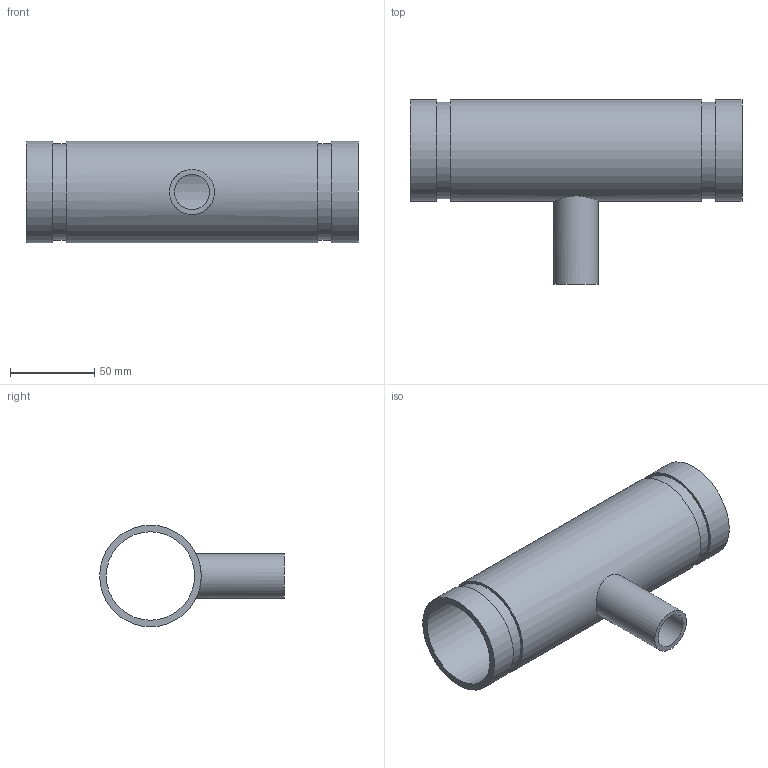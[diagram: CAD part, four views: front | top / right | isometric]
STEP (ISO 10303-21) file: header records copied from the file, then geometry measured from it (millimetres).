
FILE_DESCRIPTION(/* description */ ('VIC REDUCING TEE No 29T FFT (OGSxMPT)','CAx-IF Rec.Pracs.---Representation and Presentation of Product Manufacturing Information (PMI)---4.0---2014-10-13'),/* implementation_level */ '2;1');
FILE_NAME(/* name */ 'C:\Users\kkamble\AppData\Roaming\Autodesk\ApplicationPlugins\Back Up\Victaulic_IPS_Tee Reducing_No 29T FFT (OGSxMPT)\Victaulic_IPS_Tee Reducing_No 29T FFT (OGSxMPT)_02.0x0.75 (50x20).stp',/* time_stamp */ '2020-09-16T22:37:02+05:00',/* author */ ('CORINNE GRAY'),/* organization */ ('Victaulic'),/* preprocessor_version */ 'ST-DEVELOPER v17.2',/* originating_system */ 'Autodesk Inventor 2019',/* authorisation */ '');
FILE_SCHEMA (('AP242_MANAGED_MODEL_BASED_3D_ENGINEERING_MIM_LF { 1 0 10303 442 1 1 4 }'));
Length unit declared in the file: inch
Products named in the file (1): 29 FFT-02.0x0.75
Bounding box: 197.1 x 109.66 x 60.33 mm (x, y, z)
Volume: 141462 mm3; surface area: 79388.6 mm2
Topology: 1 solids, 1 shells, 15 faces, 32 edges, 24 vertices
Faces by surface type: cylinder 8, plane 7
Full cylindrical faces by diameter (mm): 20.93 x1, 26.67 x1, 52.502 x1, 57.15 x2, 60.325 x3
Entity records: 661 total; most frequent: CARTESIAN_POINT 173, DIRECTION 106, ORIENTED_EDGE 64, AXIS2_PLACEMENT_3D 49, EDGE_CURVE 32, EDGE_LOOP 24, VERTEX_POINT 24, CIRCLE 20
